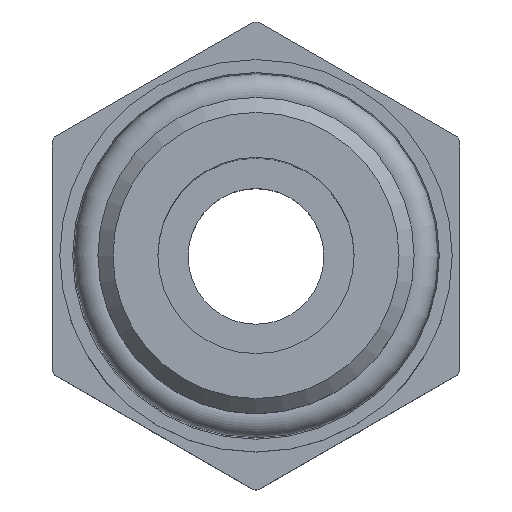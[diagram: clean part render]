
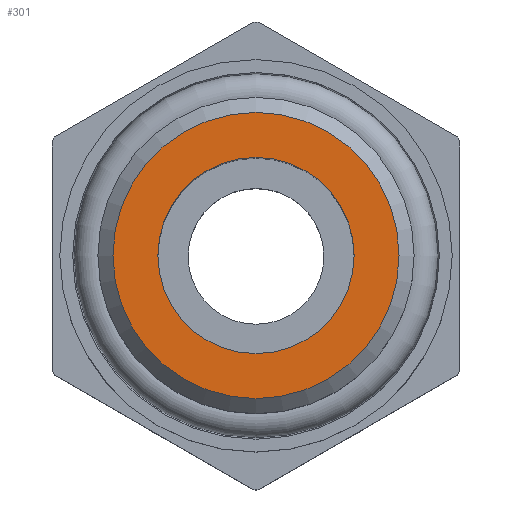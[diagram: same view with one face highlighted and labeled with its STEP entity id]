
A CAD part, top view. The second image highlights one B-rep face of the part: STEP entity #301.
In plain terms, the highlighted planar face has unit normal (0, 0, 1).
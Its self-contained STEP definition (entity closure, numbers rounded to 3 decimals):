
#238=PLANE('',#1115);
#301=ADVANCED_FACE('',(#387,#388),#238,.T.);
#387=FACE_BOUND('',#464,.T.);
#388=FACE_BOUND('',#465,.T.);
#464=EDGE_LOOP('',(#603));
#465=EDGE_LOOP('',(#604));
#603=ORIENTED_EDGE('',*,*,#932,.F.);
#604=ORIENTED_EDGE('',*,*,#931,.F.);
#827=VERTEX_POINT('',#1608);
#828=VERTEX_POINT('',#1611);
#931=EDGE_CURVE('',#827,#827,#1033,.T.);
#932=EDGE_CURVE('',#828,#828,#1034,.T.);
#1033=CIRCLE('',#1112,9.48);
#1034=CIRCLE('',#1114,6.5);
#1112=AXIS2_PLACEMENT_3D('',#1607,#1306,#1307);
#1114=AXIS2_PLACEMENT_3D('',#1610,#1310,#1311);
#1115=AXIS2_PLACEMENT_3D('',#1612,#1312,#1313);
#1306=DIRECTION('',(0.,0.,-1.));
#1307=DIRECTION('',(0.,-1.,0.));
#1310=DIRECTION('',(0.,0.,1.));
#1311=DIRECTION('',(0.,-1.,0.));
#1312=DIRECTION('',(0.,0.,1.));
#1313=DIRECTION('',(0.,1.,0.));
#1607=CARTESIAN_POINT('',(0.,0.,57.769));
#1608=CARTESIAN_POINT('',(0.,-9.48,57.769));
#1610=CARTESIAN_POINT('',(0.,0.,
57.769));
#1611=CARTESIAN_POINT('',(0.,-6.5,57.769));
#1612=CARTESIAN_POINT('',(0.,-9.48,57.769));
